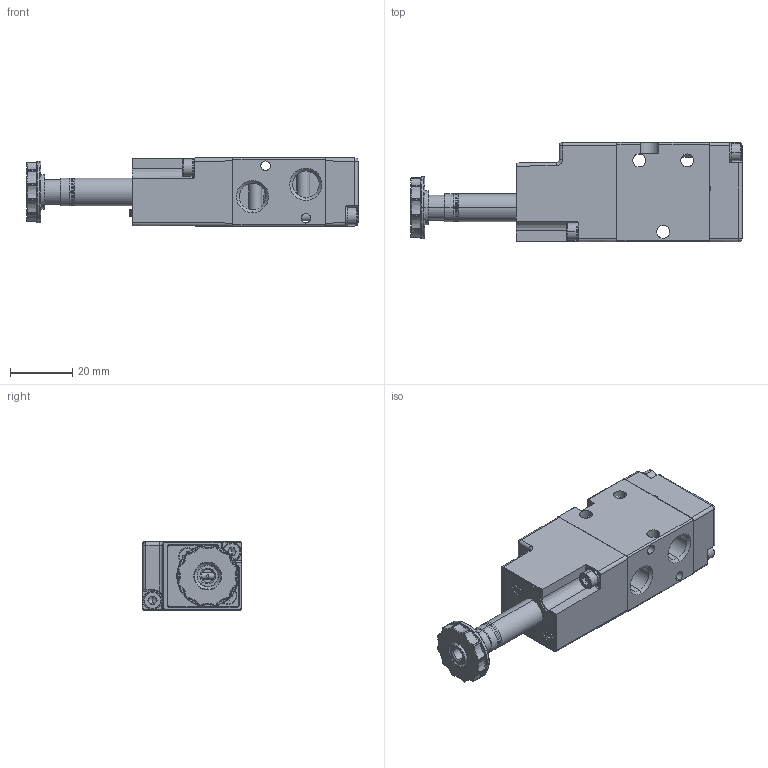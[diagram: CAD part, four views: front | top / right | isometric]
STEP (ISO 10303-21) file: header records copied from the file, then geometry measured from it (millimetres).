
FILE_DESCRIPTION (( 'STEP AP214' ), '1' );
FILE_NAME ('01VS03NC02A.STEP', '2013-03-25T14:13:04', ( '' ), ( '' ), 'SwSTEP 2.0', 'SolidWorks 2012', '' );
FILE_SCHEMA (( 'AUTOMOTIVE_DESIGN' ));
Length unit declared in the file: millimetre
Products named in the file (1): 01VS03NC02A
Bounding box: 107 x 32.13 x 22 mm (x, y, z)
Surface area: 15267.8 mm2 (no closed solid volume)
Topology: 0 solids, 25 shells, 593 faces, 1732 edges, 1086 vertices
Faces by surface type: plane 159, cylinder 149, torus 99, bspline 96, cone 62, sphere 28
Entity records: 29137 total; most frequent: CARTESIAN_POINT 8161, DIRECTION 2974, ORIENTED_EDGE 2854, EDGE_CURVE 1686, AXIS2_PLACEMENT_3D 1196, VERTEX_POINT 1083, CIRCLE 698, EDGE_LOOP 651
